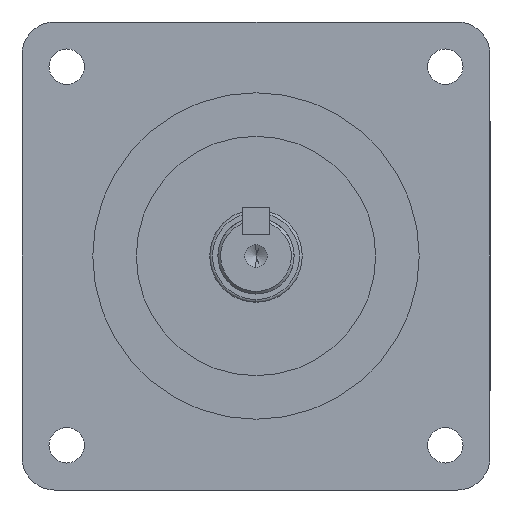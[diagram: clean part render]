
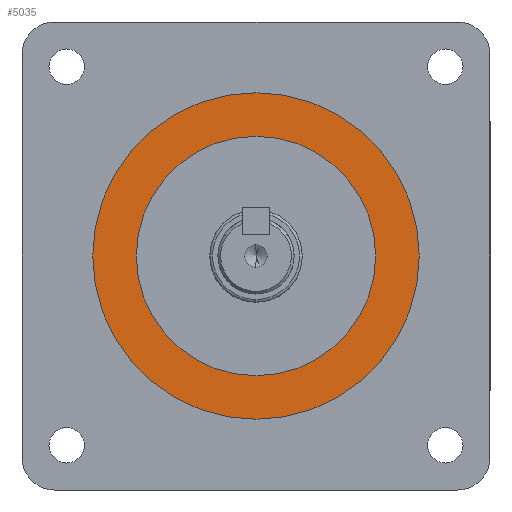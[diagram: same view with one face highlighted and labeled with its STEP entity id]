
A CAD part, left-side view. The second image highlights one B-rep face of the part: STEP entity #5035.
In plain terms, the highlighted planar face has unit normal (-1, 0, 0).
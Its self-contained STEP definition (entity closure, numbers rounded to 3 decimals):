
#27 = VERTEX_POINT ( 'NONE', #1744 ) ;
#198 = CIRCLE ( 'NONE', #2787, 22. ) ;
#461 = EDGE_LOOP ( 'NONE', ( #691, #4790 ) ) ;
#471 = CARTESIAN_POINT ( 'NONE',  ( -1.6, 0., 30. ) ) ;
#492 = EDGE_LOOP ( 'NONE', ( #2713, #4890 ) ) ;
#496 = DIRECTION ( 'NONE',  ( -1., 0., 0. ) ) ;
#553 = AXIS2_PLACEMENT_3D ( 'NONE', #1998, #1428, #883 ) ;
#582 = DIRECTION ( 'NONE',  ( 0., 0., 1. ) ) ;
#586 = AXIS2_PLACEMENT_3D ( 'NONE', #2799, #1117, #582 ) ;
#691 = ORIENTED_EDGE ( 'NONE', *, *, #5087, .F. ) ;
#820 = FACE_BOUND ( 'NONE', #461, .T. ) ;
#855 = AXIS2_PLACEMENT_3D ( 'NONE', #3387, #2284, #1714 ) ;
#883 = DIRECTION ( 'NONE',  ( 0., 0., 1. ) ) ;
#972 = VERTEX_POINT ( 'NONE', #5325 ) ;
#1043 = CARTESIAN_POINT ( 'NONE',  ( -1.6, 0., 0. ) ) ;
#1117 = DIRECTION ( 'NONE',  ( -1., 0., 0. ) ) ;
#1428 = DIRECTION ( 'NONE',  ( -1., 0., 0. ) ) ;
#1611 = EDGE_CURVE ( 'NONE', #2465, #27, #1717, .T. ) ;
#1674 = EDGE_CURVE ( 'NONE', #27, #2465, #3392, .T. ) ;
#1714 = DIRECTION ( 'NONE',  ( 0., 0., 1. ) ) ;
#1717 = CIRCLE ( 'NONE', #586, 30. ) ;
#1744 = CARTESIAN_POINT ( 'NONE',  ( -1.6, 0., -30. ) ) ;
#1998 = CARTESIAN_POINT ( 'NONE',  ( -1.6, 0., 0. ) ) ;
#2055 = EDGE_CURVE ( 'NONE', #972, #3783, #5075, .T. ) ;
#2280 = DIRECTION ( 'NONE',  ( 0., 0., 1. ) ) ;
#2284 = DIRECTION ( 'NONE',  ( -1., 0., 0. ) ) ;
#2465 = VERTEX_POINT ( 'NONE', #471 ) ;
#2551 = PLANE ( 'NONE',  #553 ) ;
#2713 = ORIENTED_EDGE ( 'NONE', *, *, #1674, .T. ) ;
#2787 = AXIS2_PLACEMENT_3D ( 'NONE', #1043, #496, #5359 ) ;
#2799 = CARTESIAN_POINT ( 'NONE',  ( -1.6, 0., 0. ) ) ;
#2825 = DIRECTION ( 'NONE',  ( -1., 0., 0. ) ) ;
#3110 = CARTESIAN_POINT ( 'NONE',  ( -1.6, 0., -22. ) ) ;
#3387 = CARTESIAN_POINT ( 'NONE',  ( -1.6, 0., 0. ) ) ;
#3392 = CIRCLE ( 'NONE', #855, 30. ) ;
#3783 = VERTEX_POINT ( 'NONE', #3110 ) ;
#3927 = CARTESIAN_POINT ( 'NONE',  ( -1.6, 0., 0. ) ) ;
#4790 = ORIENTED_EDGE ( 'NONE', *, *, #2055, .F. ) ;
#4890 = ORIENTED_EDGE ( 'NONE', *, *, #1611, .T. ) ;
#4981 = FACE_OUTER_BOUND ( 'NONE', #492, .T. ) ;
#5035 = ADVANCED_FACE ( 'NONE', ( #4981, #820 ), #2551, .T. ) ;
#5075 = CIRCLE ( 'NONE', #5296, 22. ) ;
#5087 = EDGE_CURVE ( 'NONE', #3783, #972, #198, .T. ) ;
#5296 = AXIS2_PLACEMENT_3D ( 'NONE', #3927, #2825, #2280 ) ;
#5325 = CARTESIAN_POINT ( 'NONE',  ( -1.6, 0., 22. ) ) ;
#5359 = DIRECTION ( 'NONE',  ( 0., 0., 1. ) ) ;
